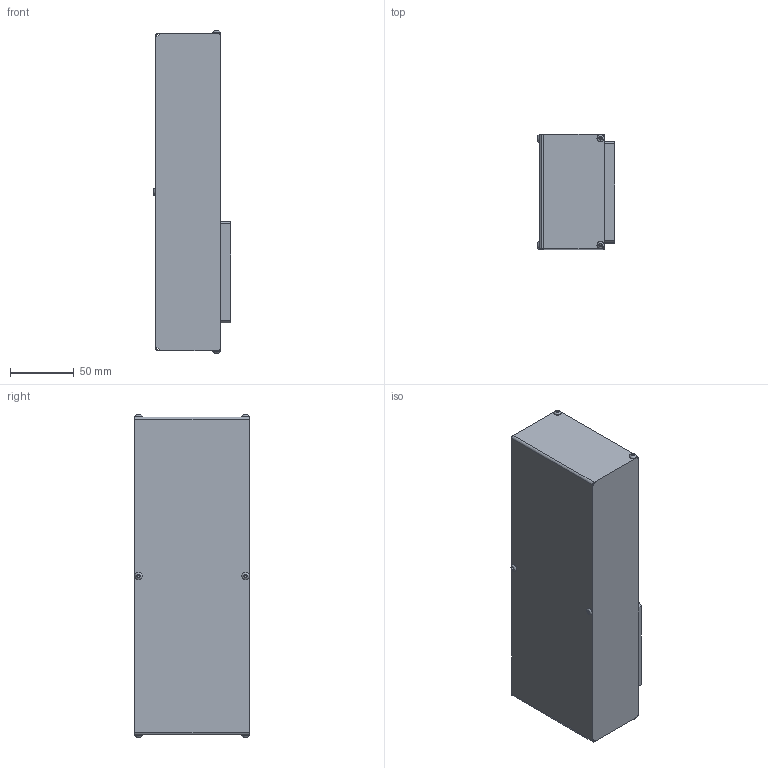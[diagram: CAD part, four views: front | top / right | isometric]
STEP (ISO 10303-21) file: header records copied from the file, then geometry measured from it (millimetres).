
FILE_DESCRIPTION(/* description */ (''),/* implementation_level */ '2;1');
FILE_NAME(/* name */ 'X:\VIRI ZA WEB\CAD DATOTEKE\LINEARNE ENOTE UNIMOTION\DODATNA OPREMA ZA LINEARNE ENOTE\STRANSKI POGONI\CTV-MTV\CTV 110-MTV 65\MSD CTV 110 T2 1 63\izvoz\MSD CTV 110 T2 1 63.stp',/* time_stamp */ '2016-06-06T12:11:57+02:00',/* author */ ('Hypex'),/* organization */ ('Hypex'),/* preprocessor_version */ 'ST-DEVELOPER v16.1',/* originating_system */ 'Autodesk Inventor 2016',/* authorisation */ '');
FILE_SCHEMA (('AUTOMOTIVE_DESIGN { 1 0 10303 214 3 1 1 }'));
Length unit declared in the file: millimetre
Products named in the file (1): MSD CTV 110 T2 1 63
Bounding box: 60.65 x 90 x 253.3 mm (x, y, z)
Volume: 1160886.5 mm3; surface area: 97042.7 mm2
Topology: 1 solids, 13 shells, 231 faces, 558 edges, 365 vertices
Faces by surface type: plane 132, cylinder 61, cone 26, bspline 6, torus 6
Full cylindrical faces by diameter (mm): 2.459 x6, 3 x6, 4 x6, 5.2 x4, 5.7 x6, 6.2 x12, 25 x1, 40 x1, 65 x1
Entity records: 6301 total; most frequent: CARTESIAN_POINT 1218, DIRECTION 1008, ORIENTED_EDGE 868, EDGE_CURVE 432, AXIS2_PLACEMENT_3D 392, EDGE_LOOP 344, VERTEX_POINT 314, STYLED_ITEM 232
